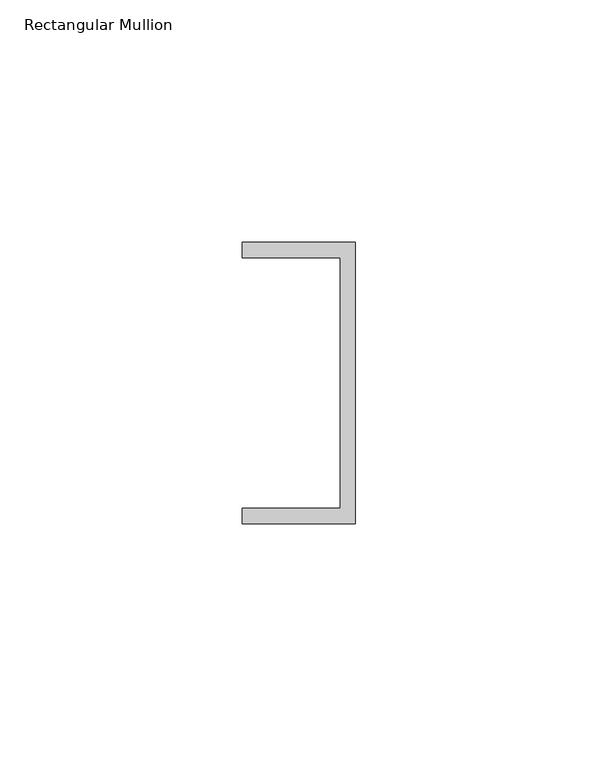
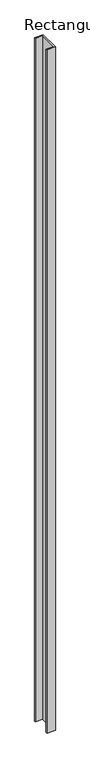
"""IFC4 building model written with IfcOpenShell, lengths in millimetres: member geometry, Rectangular Mullion : Frame-Teknion-Altos-Base_Channel."""

from ifc_helpers import new_model, si_unit, frame, origin, place, context, project, spatial, polyline, outline, extrude, source, transform, mapped, element, save


def rectangular_mullion_7ac4b66f(model_context):
    return source(origin(), model_context, "Body", "SweptSolid", [
        extrude(outline(polyline([(0.0, 29.0214844), (0.0, -29.0214844), (-23.3164063, -29.0214844), (-23.3164063, -25.8464844), (-3.175, -25.8464844), (-3.175, 25.8464844), (-23.3164063, 25.8464844), (-23.3164063, 29.0214844), (0.0, 29.0214844)])), frame((0.0, 0.0, -1990.0304687), z_axis=(0.0, 0.0, 1.0), x_axis=(1.0, 0.0, 0.0)), (0.0, 0.0, 1.0), 1990.0304688),
    ])


if __name__ == "__main__":
    model = new_model("IFC4")
    model_context = context("Model", 3, world=origin())
    ifc_project = project(units=[si_unit("LENGTHUNIT", "METRE", prefix="MILLI")], contexts=[model_context])
    site = spatial("IfcSite", under=ifc_project)
    building = spatial("IfcBuilding", under=site)
    placement = place(None, origin())
    rectangular_mullion_shape = rectangular_mullion_7ac4b66f(model_context)
    element("IfcMember", 1, ObjectType="Rectangular Mullion : Frame-Teknion-Altos-Base_Channel", at=placement, inside=building, context=model_context, shape_type="MappedRepresentation", body=[
        mapped(rectangular_mullion_shape, transform((0.0, 0.0, 0.0), x_axis=(1.0, 0.0, 0.0), y_axis=(0.0, 1.0, 0.0), z_axis=(0.0, 0.0, 1.0))),
    ])
    save(model, "model.ifc")
